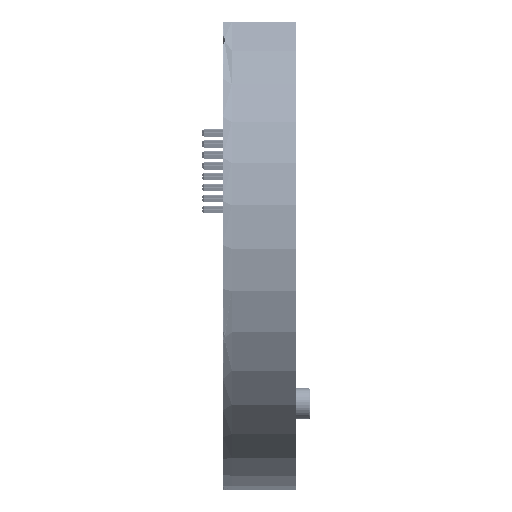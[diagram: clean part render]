
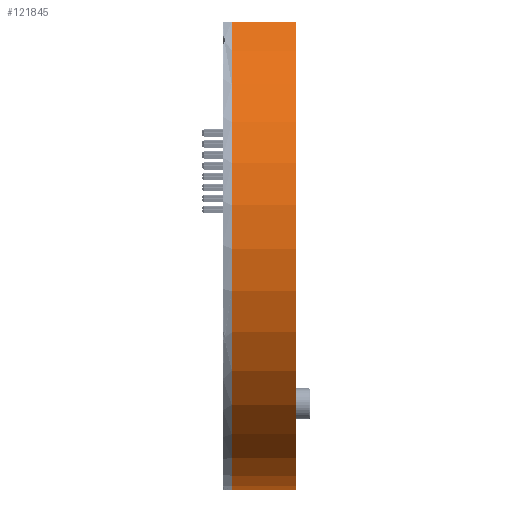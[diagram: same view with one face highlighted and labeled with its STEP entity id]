
A CAD part, left-side view. The second image highlights one B-rep face of the part: STEP entity #121845.
In plain terms, the highlighted cylindrical face has radius 29.21 mm (diameter 58.42 mm), a partial arc.
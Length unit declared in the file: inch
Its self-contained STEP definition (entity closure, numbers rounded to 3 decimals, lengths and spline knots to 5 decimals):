
#17851 = DIRECTION ( 'NONE',  ( 0., 0., -1. ) ) ;
#17856 = DIRECTION ( 'NONE',  ( 0., -1., 0. ) ) ;
#17858 = CARTESIAN_POINT ( 'NONE',  ( -0.07142, 0.06188, 0.20746 ) ) ;
#19158 = FACE_OUTER_BOUND ( 'NONE', #82323, .T. ) ;
#19162 = CYLINDRICAL_SURFACE ( 'NONE', #124990, 1.15 ) ;
#33810 = CIRCLE ( 'NONE', #83682, 1.15 ) ;
#33818 = LINE ( 'NONE', #144498, #33820 ) ;
#33819 = CIRCLE ( 'NONE', #83683, 1.15 ) ;
#33820 = VECTOR ( 'NONE', #144499, 39.37008 ) ;
#33821 = LINE ( 'NONE', #144504, #33823 ) ;
#33823 = VECTOR ( 'NONE', #144503, 39.37008 ) ;
#42449 = EDGE_CURVE ( 'NONE', #60813, #60815, #33810, .T. ) ;
#42454 = EDGE_CURVE ( 'NONE', #60813, #60911, #33818, .T. ) ;
#42458 = EDGE_CURVE ( 'NONE', #60911, #60809, #33819, .T. ) ;
#42462 = EDGE_CURVE ( 'NONE', #60815, #60809, #33821, .T. ) ;
#60809 = VERTEX_POINT ( 'NONE', #144813 ) ;
#60813 = VERTEX_POINT ( 'NONE', #144819 ) ;
#60815 = VERTEX_POINT ( 'NONE', #144821 ) ;
#60911 = VERTEX_POINT ( 'NONE', #144939 ) ;
#68697 = ORIENTED_EDGE ( 'NONE', *, *, #42454, .T. ) ;
#68871 = ORIENTED_EDGE ( 'NONE', *, *, #42458, .T. ) ;
#69029 = ORIENTED_EDGE ( 'NONE', *, *, #42449, .F. ) ;
#69358 = ORIENTED_EDGE ( 'NONE', *, *, #42462, .F. ) ;
#82323 = EDGE_LOOP ( 'NONE', ( #69029, #68697, #68871, #69358 ) ) ;
#83682 = AXIS2_PLACEMENT_3D ( 'NONE', #144500, #144501, #144502 ) ;
#83683 = AXIS2_PLACEMENT_3D ( 'NONE', #144505, #144506, #144507 ) ;
#121845 = ADVANCED_FACE ( 'NONE', ( #19158 ), #19162, .T. ) ;
#124990 = AXIS2_PLACEMENT_3D ( 'NONE', #17858, #17856, #17851 ) ;
#144498 = CARTESIAN_POINT ( 'NONE',  ( -0.07142, 0.06188, -0.94254 ) ) ;
#144499 = DIRECTION ( 'NONE',  ( 0., -1., 0. ) ) ;
#144500 = CARTESIAN_POINT ( 'NONE',  ( -0.07142, 0.06188, 0.20746 ) ) ;
#144501 = DIRECTION ( 'NONE',  ( 0., 1., 0. ) ) ;
#144502 = DIRECTION ( 'NONE',  ( 0., 0., 1. ) ) ;
#144503 = DIRECTION ( 'NONE',  ( 0., -1., 0. ) ) ;
#144504 = CARTESIAN_POINT ( 'NONE',  ( -0.76142, 0.06188, 1.12746 ) ) ;
#144505 = CARTESIAN_POINT ( 'NONE',  ( -0.07142, -0.22312, 0.20746 ) ) ;
#144506 = DIRECTION ( 'NONE',  ( 0., 1., 0. ) ) ;
#144507 = DIRECTION ( 'NONE',  ( 0., 0., 1. ) ) ;
#144813 = CARTESIAN_POINT ( 'NONE',  ( -0.76142, -0.22312, 1.12746 ) ) ;
#144819 = CARTESIAN_POINT ( 'NONE',  ( -0.07142, 0.06188, -0.94254 ) ) ;
#144821 = CARTESIAN_POINT ( 'NONE',  ( -0.76142, 0.06188, 1.12746 ) ) ;
#144939 = CARTESIAN_POINT ( 'NONE',  ( -0.07142, -0.22312, -0.94254 ) ) ;
